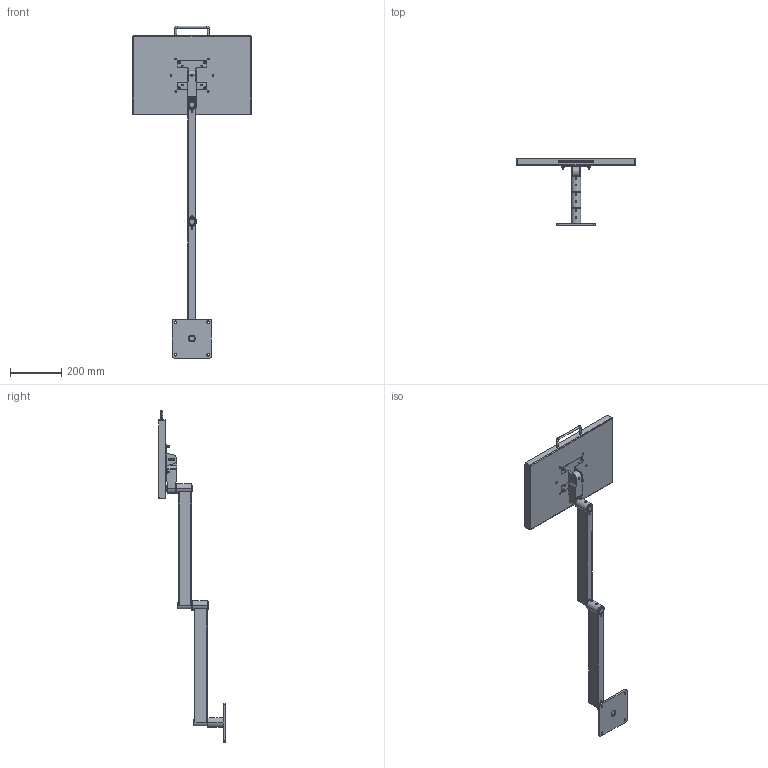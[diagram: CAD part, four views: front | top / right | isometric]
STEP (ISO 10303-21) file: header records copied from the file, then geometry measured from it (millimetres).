
FILE_DESCRIPTION (( 'STEP AP203' ), '1' );
FILE_NAME ('70-0704-00 REV AA, 36in RIGID SYSTEM, TILTING TRAY, TABLE MOUNT - FLAT.STEP', '2025-07-23T21:54:30', ( '' ), ( '' ), 'SwSTEP 2.0', 'SolidWorks 2025', '' );
FILE_SCHEMA (( 'CONFIG_CONTROL_DESIGN' ));
Length unit declared in the file: inch
Products named in the file (29): 002-090-00, FHSCS 10-32 x .625L_002-090-00; 70-1018-00 REV AA, 18in RIGID SECTION; 002-088-00, FHSCS 10-32 x .5L, BO_002-088-00; 70-0704-00 REV AA, 36in RIGID SYSTEM, TILTING TRAY, TABLE MOUNT - FLAT; 70-0048-00 REV AA, CONNECTOR PIN ASSEMBLY, .875OD x 3.9; 71-2113-RX REV AA, HOUSING, BEARING, TALL, 1.5OD_MACHINE; 11-0062-BLKX REV AA, BRACKET, VESA, SHEETMETAL, BLACK; 002-100-00, BHSCS, 8-32x.375_002-100-00; 70-0048-RX REV AA, CONNECTOR PIN, 875OD x 3.9; 007-036-00, SHSS, 1''4-28, .25L_007-036-00; 71-1018-RX REV AA, HOUSING, 18in RIGID; 70-0060-00 REV AA, VESA ATTACHMENT; 71-0022-RX REV AA, PIN, RIGID SECTION; 11-0401-00 REV AA, 18x12 TOOL TRAY, BLACK; 11-0450-00 REV AA, FOAM, YELLOW, 18x12; 016-007-00, OILITE PLUS BEARING, 0.876 id x 1.002 od x 0.75 lg; 016-008-00, OILITE PLUS BEARING, 0.876 id x 1.002 od x 1.25 lg; 025-067-00, HANDLE, U SHAPED, 8-32; 41-0063-RX REV AA, PIN, TILT, VESA; 007-034-00, SHSS, .375-24, .25L_007-034-00; 71-0122-RX REV AA, PLATE, PIVOT PLATE; 006-008-00, NUT, HEX, 10-32 x .125_006-008-00; 70-0015-00 REV AA, TABLE MOUNT; 71-1061-RX REV AA, BODY, VESA, RAW_MACHINE; 11-0028-RX REV AA, PLASTIC DISC, VESA; 016-012-00, OILITE PLUS BEARING, .876 IDx1.0 OD x 1.0; 70-0402-00 REV AA, 18x12 TILTING TOOL TRAY ASSEMBLY; 010-012-00, RETAINING RING, EXTERNAL, .875in SHAFT
Assembly tree (53 placements, depth 4):
  70-0704-00 REV AA, 36in RIGID SYSTEM, TILTING TRAY, TABLE MOUNT - FLAT
    70-0015-00 REV AA, TABLE MOUNT
      71-2113-RX REV AA, HOUSING, BEARING, TALL, 1.5OD_MACHINE
      71-0122-RX REV AA, PLATE, PIVOT PLATE
      016-007-00, OILITE PLUS BEARING, 0.876 id x 1.002 od x 0.75 lg
      016-008-00, OILITE PLUS BEARING, 0.876 id x 1.002 od x 1.25 lg
      007-036-00, SHSS, 1''4-28, .25L_007-036-00
    70-1018-00 REV AA, 18in RIGID SECTION
      71-1018-RX REV AA, HOUSING, 18in RIGID
      71-0022-RX REV AA, PIN, RIGID SECTION
      71-2113-RX REV AA, HOUSING, BEARING, TALL, 1.5OD_MACHINE
      016-007-00, OILITE PLUS BEARING, 0.876 id x 1.002 od x 0.75 lg
      016-008-00, OILITE PLUS BEARING, 0.876 id x 1.002 od x 1.25 lg
      007-036-00, SHSS, 1''4-28, .25L_007-036-00
    70-1018-00 REV AA, 18in RIGID SECTION
      71-1018-RX REV AA, HOUSING, 18in RIGID
      71-0022-RX REV AA, PIN, RIGID SECTION
      71-2113-RX REV AA, HOUSING, BEARING, TALL, 1.5OD_MACHINE
      016-007-00, OILITE PLUS BEARING, 0.876 id x 1.002 od x 0.75 lg
      016-008-00, OILITE PLUS BEARING, 0.876 id x 1.002 od x 1.25 lg
      010-012-00, RETAINING RING, EXTERNAL, .875in SHAFT
      007-036-00, SHSS, 1''4-28, .25L_007-036-00
    70-0048-00 REV AA, CONNECTOR PIN ASSEMBLY, .875OD x 3.9
      70-0048-RX REV AA, CONNECTOR PIN, 875OD x 3.9
      010-012-00, RETAINING RING, EXTERNAL, .875in SHAFT  x2
    70-0402-00 REV AA, 18x12 TILTING TOOL TRAY ASSEMBLY
      70-0060-00 REV AA, VESA ATTACHMENT
        71-1061-RX REV AA, BODY, VESA, RAW_MACHINE
        016-008-00, OILITE PLUS BEARING, 0.876 id x 1.002 od x 1.25 lg
        016-012-00, OILITE PLUS BEARING, .876 IDx1.0 OD x 1.0
        007-034-00, SHSS, .375-24, .25L_007-034-00
        41-0063-RX REV AA, PIN, TILT, VESA
        11-0028-RX REV AA, PLASTIC DISC, VESA  x2
        11-0062-BLKX REV AA, BRACKET, VESA, SHEETMETAL, BLACK
        002-088-00, FHSCS 10-32 x .5L, BO_002-088-00  x4
        007-036-00, SHSS, 1''4-28, .25L_007-036-00
      11-0401-00 REV AA, 18x12 TOOL TRAY, BLACK
      025-067-00, HANDLE, U SHAPED, 8-32
      11-0450-00 REV AA, FOAM, YELLOW, 18x12
      002-100-00, BHSCS, 8-32x.375_002-100-00  x2
      002-090-00, FHSCS 10-32 x .625L_002-090-00  x4
      006-008-00, NUT, HEX, 10-32 x .125_006-008-00  x4
Bounding box: 461.77 x 259.9 x 1297.94 mm (x, y, z)
Volume: 1805623.5 mm3; surface area: 1143096.3 mm2
Topology: 47 solids, 47 shells, 1831 faces, 4493 edges, 2757 vertices
Faces by surface type: cylinder 905, cone 414, plane 347, torus 112, bspline 49, sphere 4
Entity records: 35553 total; most frequent: CARTESIAN_POINT 13877, ORIENTED_EDGE 3780, DIRECTION 3767, EDGE_CURVE 1890, AXIS2_PLACEMENT_3D 1495, VERTEX_POINT 1168, EDGE_LOOP 894, FACE_OUTER_BOUND 778
